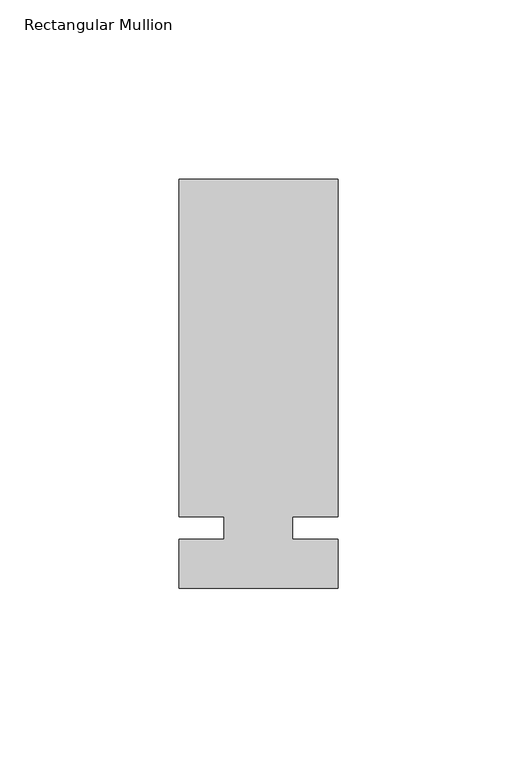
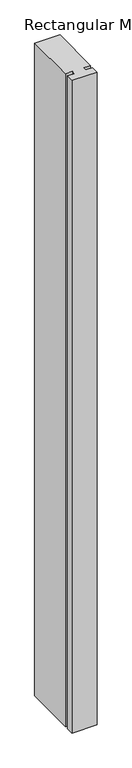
"""IFC4 building model written with IfcOpenShell, lengths in millimetres: member geometry, Rectangular Mullion : Kawneer-TRIFAB_VG_450_BACK_SB_Vertical."""

from ifc_helpers import new_model, si_unit, frame, origin, place, context, project, spatial, polyline, outline, extrude, source, transform, mapped, element, save


def rectangular_mullion_3bbbedf9(model_context):
    return source(origin(), model_context, "Body", "SweptSolid", [
        extrude(outline(polyline([(22.225, -16.8532346), (-22.225, -16.8532346), (-22.225, -3.175), (-9.525, -3.175), (-9.525, 3.175), (-22.225, 3.175), (-22.225, 97.4467654), (22.225, 97.4467654), (22.225, 3.175), (9.5232296, 3.175), (9.5232296, -3.175), (22.225, -3.175), (22.225, -16.8532346)])), frame((0.0, 0.0, -1219.2), z_axis=(0.0, 0.0, 1.0), x_axis=(1.0, 0.0, 0.0)), (0.0, 0.0, 1.0), 1219.2),
    ])


if __name__ == "__main__":
    model = new_model("IFC4")
    model_context = context("Model", 3, world=origin())
    ifc_project = project(units=[si_unit("LENGTHUNIT", "METRE", prefix="MILLI")], contexts=[model_context])
    site = spatial("IfcSite", under=ifc_project)
    building = spatial("IfcBuilding", under=site)
    placement = place(None, origin())
    rectangular_mullion_shape = rectangular_mullion_3bbbedf9(model_context)
    element("IfcMember", 1, ObjectType="Rectangular Mullion : Kawneer-TRIFAB_VG_450_BACK_SB_Vertical", at=placement, inside=building, context=model_context, shape_type="MappedRepresentation", body=[
        mapped(rectangular_mullion_shape, transform((0.0, 0.0, 0.0), x_axis=(1.0, 0.0, 0.0), y_axis=(0.0, 1.0, 0.0), z_axis=(0.0, 0.0, 1.0))),
    ])
    save(model, "model.ifc")
